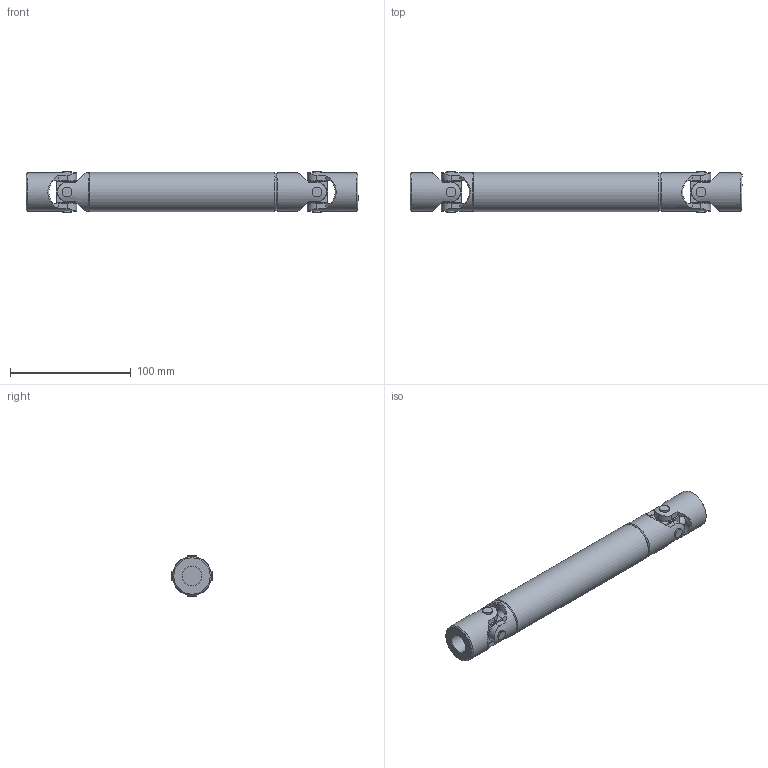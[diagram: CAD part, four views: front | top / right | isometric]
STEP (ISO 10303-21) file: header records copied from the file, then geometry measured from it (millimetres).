
FILE_DESCRIPTION(/* description */ (''),/* implementation_level */ '2;1');
FILE_NAME(/* name */ '\\SRV2016\societa\Stefano\Disegni 3D\0Catalogo 3D\15Trasmissioni speciali XA\Ø32_1XA\1XA.stp',/* time_stamp */ '2023-05-16T17:56:49+02:00',/* author */ ('acquisti'),/* organization */ (''),/* preprocessor_version */ 'ST-DEVELOPER v15.6',/* originating_system */ 'Autodesk Inventor 2015',/* authorisation */ '');
FILE_SCHEMA (('AUTOMOTIVE_DESIGN { 1 0 10303 214 3 1 1 }'));
Length unit declared in the file: millimetre
Products named in the file (5): 1X MOS; 1XA SFE; 1X LAI; 1X LCI; Ø32_1XA
Assembly tree (6 placements, depth 2):
  Ø32_1XA
    1X MOS  x2
    1XA SFE  x2
    1X LAI
    1X LCI
Bounding box: 275 x 34.1 x 34.1 mm (x, y, z)
Volume: 162108 mm3; surface area: 63812.8 mm2
Topology: 6 solids, 6 shells, 182 faces, 469 edges, 315 vertices
Faces by surface type: plane 92, cylinder 61, cone 25, torus 4
Full cylindrical faces by diameter (mm): 8 x8, 15.5 x8, 16 x3, 18 x4, 27 x1, 32 x4, 32.5 x1
Entity records: 4845 total; most frequent: CARTESIAN_POINT 1429, DIRECTION 684, ORIENTED_EDGE 670, EDGE_CURVE 335, AXIS2_PLACEMENT_3D 270, VERTEX_POINT 241, EDGE_LOOP 188, LINE 144
